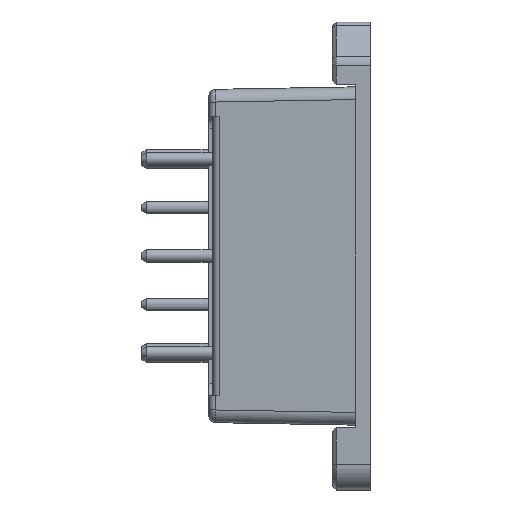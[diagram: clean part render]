
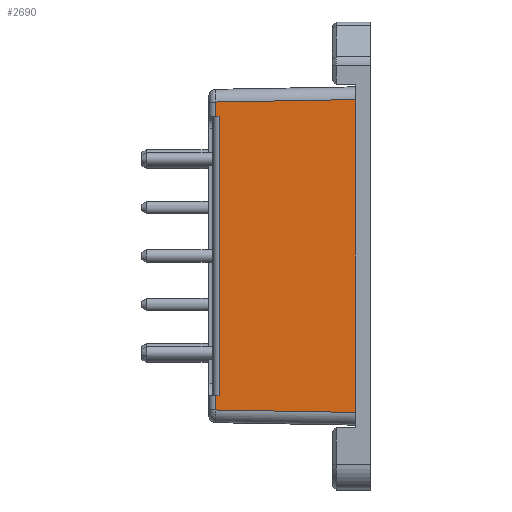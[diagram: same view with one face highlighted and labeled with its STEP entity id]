
A CAD part, left-side view. The second image highlights one B-rep face of the part: STEP entity #2690.
In plain terms, the highlighted planar face has unit normal (-1, 0.018, 0).
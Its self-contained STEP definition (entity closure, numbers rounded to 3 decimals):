
#778 = DIRECTION ( 'NONE',  ( -0.017, -1., -0.017 ) ) ;
#907 = VECTOR ( 'NONE', #14187, 1000. ) ;
#1095 = CARTESIAN_POINT ( 'NONE',  ( -30.913, 10.709, -11. ) ) ;
#1226 = VECTOR ( 'NONE', #4062, 1000. ) ;
#1399 = ORIENTED_EDGE ( 'NONE', *, *, #1407, .T. ) ;
#1407 = EDGE_CURVE ( 'NONE', #12569, #2411, #7420, .T. ) ;
#1491 = AXIS2_PLACEMENT_3D ( 'NONE', #13392, #5710, #4591 ) ;
#1546 = VECTOR ( 'NONE', #778, 1000. ) ;
#1581 = DIRECTION ( 'NONE',  ( 0., 0., 1. ) ) ;
#1767 = EDGE_CURVE ( 'NONE', #13602, #2015, #10798, .T. ) ;
#1885 = VERTEX_POINT ( 'NONE', #11296 ) ;
#1897 = LINE ( 'NONE', #8627, #1546 ) ;
#1979 = CARTESIAN_POINT ( 'NONE',  ( -31.1, 0., -11. ) ) ;
#2015 = VERTEX_POINT ( 'NONE', #9008 ) ;
#2096 = CARTESIAN_POINT ( 'NONE',  ( -30.913, 10.709, -11. ) ) ;
#2411 = VERTEX_POINT ( 'NONE', #11281 ) ;
#2690 = ADVANCED_FACE ( 'NONE', ( #4444 ), #7940, .T. ) ;
#2998 = CARTESIAN_POINT ( 'NONE',  ( -31.1, 0., 12.3 ) ) ;
#3241 = EDGE_CURVE ( 'NONE', #4414, #12569, #11072, .T. ) ;
#3911 = LINE ( 'NONE', #9691, #1226 ) ;
#3942 = CARTESIAN_POINT ( 'NONE',  ( -31.1, 0., -13.3 ) ) ;
#4062 = DIRECTION ( 'NONE',  ( -0.017, -1., 0. ) ) ;
#4414 = VERTEX_POINT ( 'NONE', #1095 ) ;
#4444 = FACE_OUTER_BOUND ( 'NONE', #4933, .T. ) ;
#4478 = ORIENTED_EDGE ( 'NONE', *, *, #3241, .T. ) ;
#4591 = DIRECTION ( 'NONE',  ( -0.017, -1., 0. ) ) ;
#4933 = EDGE_LOOP ( 'NONE', ( #1399, #10701, #7654, #5510, #7231, #11018, #11486, #4478 ) ) ;
#5510 = ORIENTED_EDGE ( 'NONE', *, *, #6926, .T. ) ;
#5658 = VECTOR ( 'NONE', #8680, 1000. ) ;
#5710 = DIRECTION ( 'NONE',  ( -1., 0.017, 0. ) ) ;
#6140 = VERTEX_POINT ( 'NONE', #7717 ) ;
#6198 = EDGE_CURVE ( 'NONE', #6140, #4414, #12371, .T. ) ;
#6926 = EDGE_CURVE ( 'NONE', #9802, #13602, #11910, .T. ) ;
#7231 = ORIENTED_EDGE ( 'NONE', *, *, #1767, .T. ) ;
#7420 = LINE ( 'NONE', #9647, #5658 ) ;
#7654 = ORIENTED_EDGE ( 'NONE', *, *, #13319, .T. ) ;
#7717 = CARTESIAN_POINT ( 'NONE',  ( -30.913, 10.709, 11. ) ) ;
#7940 = PLANE ( 'NONE',  #1491 ) ;
#8144 = VECTOR ( 'NONE', #12441, 1000. ) ;
#8238 = LINE ( 'NONE', #3942, #14435 ) ;
#8362 = CARTESIAN_POINT ( 'NONE',  ( -31.092, 0.447, 12.292 ) ) ;
#8627 = CARTESIAN_POINT ( 'NONE',  ( -31.1, -0.017, -12.3 ) ) ;
#8637 = DIRECTION ( 'NONE',  ( 0.017, 1., 0. ) ) ;
#8680 = DIRECTION ( 'NONE',  ( 0., 0., -1. ) ) ;
#9008 = CARTESIAN_POINT ( 'NONE',  ( -30.908, 11.009, 11. ) ) ;
#9647 = CARTESIAN_POINT ( 'NONE',  ( -30.908, 11.009, -13.099 ) ) ;
#9688 = CARTESIAN_POINT ( 'NONE',  ( -30.908, 11.009, 11. ) ) ;
#9691 = CARTESIAN_POINT ( 'NONE',  ( -31.1, 0., 11. ) ) ;
#9802 = VERTEX_POINT ( 'NONE', #2998 ) ;
#9848 = EDGE_CURVE ( 'NONE', #2411, #1885, #1897, .T. ) ;
#10701 = ORIENTED_EDGE ( 'NONE', *, *, #9848, .T. ) ;
#10798 = LINE ( 'NONE', #9688, #907 ) ;
#11018 = ORIENTED_EDGE ( 'NONE', *, *, #11620, .T. ) ;
#11072 = LINE ( 'NONE', #1979, #11898 ) ;
#11281 = CARTESIAN_POINT ( 'NONE',  ( -30.908, 11.009, -12.108 ) ) ;
#11296 = CARTESIAN_POINT ( 'NONE',  ( -31.1, 0., -12.3 ) ) ;
#11486 = ORIENTED_EDGE ( 'NONE', *, *, #6198, .T. ) ;
#11620 = EDGE_CURVE ( 'NONE', #2015, #6140, #3911, .T. ) ;
#11768 = DIRECTION ( 'NONE',  ( 0.017, 1., -0.017 ) ) ;
#11898 = VECTOR ( 'NONE', #8637, 1000. ) ;
#11910 = LINE ( 'NONE', #8362, #14029 ) ;
#12371 = LINE ( 'NONE', #2096, #8144 ) ;
#12432 = CARTESIAN_POINT ( 'NONE',  ( -30.908, 11.009, 12.108 ) ) ;
#12441 = DIRECTION ( 'NONE',  ( 0., 0., -1. ) ) ;
#12569 = VERTEX_POINT ( 'NONE', #14181 ) ;
#13319 = EDGE_CURVE ( 'NONE', #1885, #9802, #8238, .T. ) ;
#13392 = CARTESIAN_POINT ( 'NONE',  ( -31.1, 0., -13.3 ) ) ;
#13602 = VERTEX_POINT ( 'NONE', #12432 ) ;
#14029 = VECTOR ( 'NONE', #11768, 1000. ) ;
#14181 = CARTESIAN_POINT ( 'NONE',  ( -30.908, 11.009, -11. ) ) ;
#14187 = DIRECTION ( 'NONE',  ( 0., 0., -1. ) ) ;
#14435 = VECTOR ( 'NONE', #1581, 1000. ) ;
